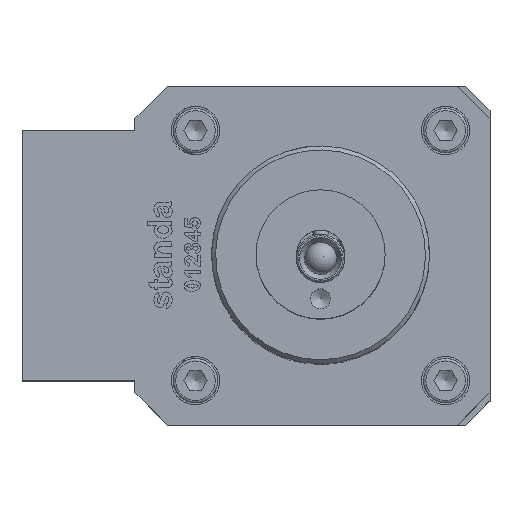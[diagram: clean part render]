
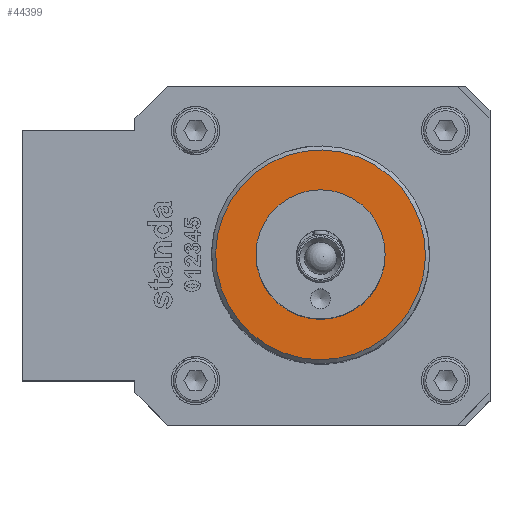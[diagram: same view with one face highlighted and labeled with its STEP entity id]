
A CAD part, top view. The second image highlights one B-rep face of the part: STEP entity #44399.
In plain terms, the highlighted planar face has unit normal (0, 0, 1) by its records, which use the part's own axes.
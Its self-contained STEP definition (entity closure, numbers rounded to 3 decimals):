
#9105=PLANE($,#47316);
#10534=FACE_BOUND($,#14647,.T.);
#10535=FACE_BOUND($,#14648,.T.);
#14647=EDGE_LOOP($,(#31675));
#14648=EDGE_LOOP($,(#31676));
#17527=CIRCLE($,#47199,8.);
#17569=CIRCLE($,#47315,13.);
#19356=VERTEX_POINT($,#63539);
#19453=VERTEX_POINT($,#65074);
#24109=EDGE_CURVE($,#19356,#19356,#17527,.T.);
#24239=EDGE_CURVE($,#19453,#19453,#17569,.T.);
#31675=ORIENTED_EDGE($,*,*,#24109,.F.);
#31676=ORIENTED_EDGE($,*,*,#24239,.F.);
#44399=ADVANCED_FACE($,(#10534,#10535),#9105,.T.);
#47199=AXIS2_PLACEMENT_3D($,#63540,#51852,#51853);
#47315=AXIS2_PLACEMENT_3D($,#65075,#52124,#52125);
#47316=AXIS2_PLACEMENT_3D($,#65076,#52126,#52127);
#51852=DIRECTION('center_axis',(0.,0.,
1.));
#51853=DIRECTION('ref_axis',(1.,0.,0.));
#52124=DIRECTION('center_axis',(0.,0.,
-1.));
#52125=DIRECTION('ref_axis',(0.156,-0.988,0.));
#52126=DIRECTION('center_axis',(0.,0.,
1.));
#52127=DIRECTION('ref_axis',(-0.156,0.988,0.));
#63539=CARTESIAN_POINT('',(92.246,114.869,93.002));
#63540=CARTESIAN_POINT('Origin',(100.246,114.869,93.002));
#65074=CARTESIAN_POINT('',(98.214,127.709,93.002));
#65075=CARTESIAN_POINT('Origin',(100.246,114.869,93.002));
#65076=CARTESIAN_POINT('Origin',(99.191,121.536,93.002));
